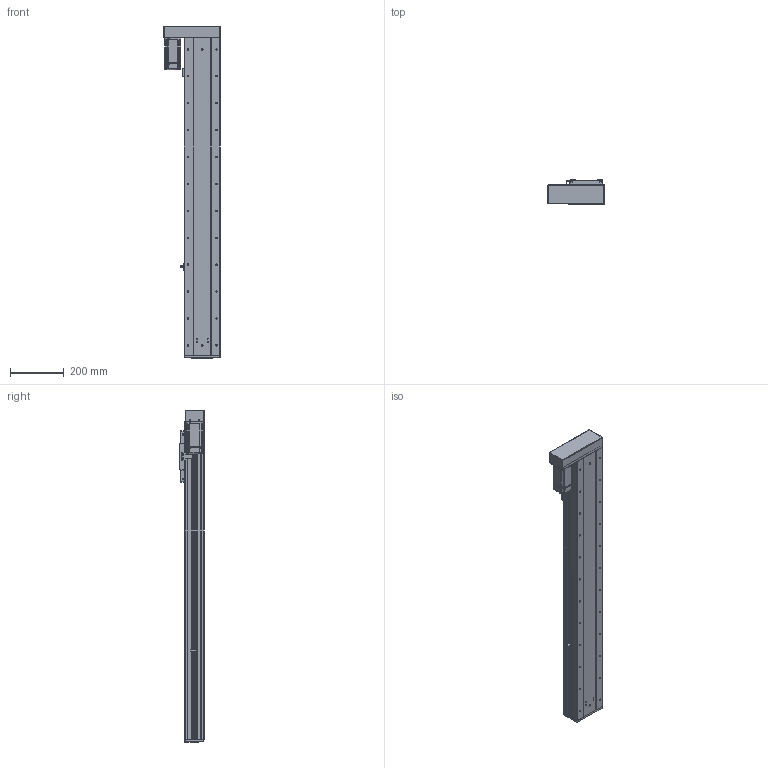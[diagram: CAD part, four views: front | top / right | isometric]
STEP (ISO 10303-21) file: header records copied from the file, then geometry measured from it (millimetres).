
FILE_DESCRIPTION (( 'STEP AP203' ), '1' );
FILE_NAME ('RY140F-L2020-300-LK.SLDASM_900.step', '2021-03-02T08:37:34', ( '盈信电脑' ), ( '东莞市道滘镇水果街19号' ), 'SwSTEP 2.0', 'SolidWorks 2012', '' );
FILE_SCHEMA (( 'CONFIG_CONTROL_DESIGN' ));
Products named in the file (19): RY140F-酘衵殏萇儂欶(400W); RY140F-左右折电机安装板(400W M5); RY140F-L2020-300-LK.SLDASM_900; RY140F-转折折电机座（7001）; 侐源滅袉蝶; RY140F-詩湍揤え; RY140F-672覜茼んえ; 15; RY140F-后盖板(铝件）; 覜茼ん672; 侂狟400W侜督萇儂; RY140F-詩湍幗謫粣; RY140F-滅鳥奻裔; RY140F-直连型材铝滑块(16丝杆); RY100F-詩湍揤踡謫; RY140F-300-LK倰第奻裔啣_900; RY140F-直连型材铝滑块连接座; RY140F-300-LK蛌殏詩湍_900; RY140F-300-LK倰第菁釱_900
Assembly tree (23 placements, depth 3):
  RY140F-L2020-300-LK.SLDASM_900
    RY140F-300-LK倰第菁釱_900
    RY140F-300-LK倰第奻裔啣_900  x2
    RY140F-300-LK蛌殏詩湍_900
    RY140F-直连型材铝滑块连接座
    RY140F-滅鳥奻裔
    RY140F-詩湍幗謫粣
    RY100F-詩湍揤踡謫
    RY140F-直连型材铝滑块(16丝杆)
    RY140F-后盖板(铝件）
    侂狟400W侜督萇儂
      15
    覜茼ん672
    RY140F-672覜茼んえ
    RY140F-詩湍揤え  x2
    侐源滅袉蝶  x4
    RY140F-转折折电机座（7001）
    RY140F-左右折电机安装板(400W M5)
    RY140F-酘衵殏萇儂欶(400W)
Bounding box: 211 x 91 x 1234 mm (x, y, z)
Volume: 4680250.6 mm3; surface area: 1674211.6 mm2
Topology: 22 solids, 22 shells, 2085 faces, 5681 edges, 3592 vertices
Faces by surface type: cylinder 1020, plane 789, cone 246, bspline 26, torus 4
Entity records: 65667 total; most frequent: CARTESIAN_POINT 13817, DIRECTION 10566, ORIENTED_EDGE 10210, EDGE_CURVE 5105, AXIS2_PLACEMENT_3D 3805, VERTEX_POINT 3332, LINE 2956, VECTOR 2956
